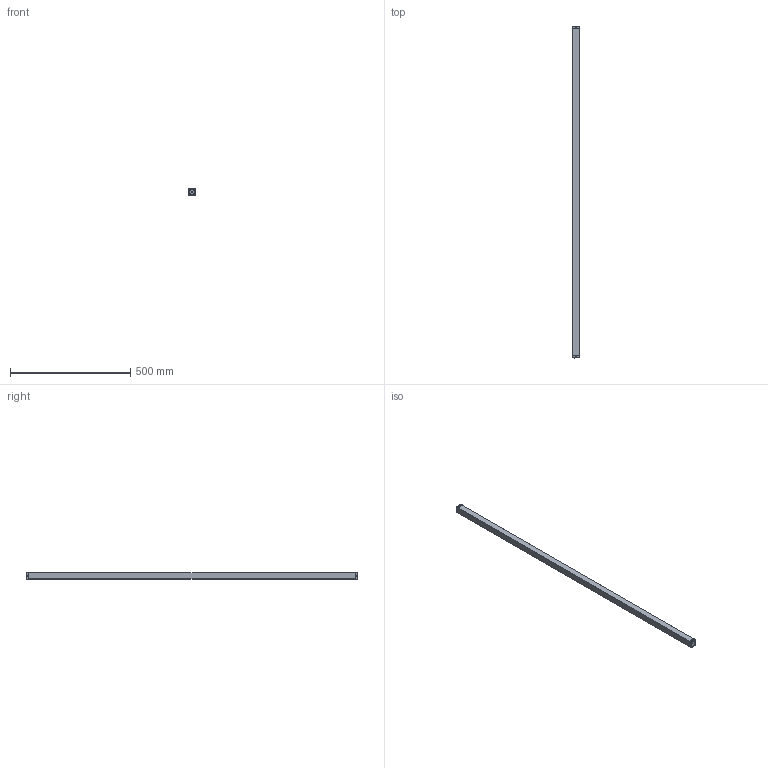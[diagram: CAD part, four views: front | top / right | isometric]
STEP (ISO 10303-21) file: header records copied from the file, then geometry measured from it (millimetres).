
FILE_DESCRIPTION((''),'2;1');
FILE_NAME('ELD00_ASM','2021-07-20T09:57:27',('18720616900'),(''),'CREO PARAMETRIC BY PTC INC, 2019010','CREO PARAMETRIC BY PTC INC, 2019010','');
FILE_SCHEMA(('CONFIG_CONTROL_DESIGN'));
Length unit declared in the file: millimetre
Products named in the file (6): ELD--00; ELD--000; ST-3-12; ELD00_ASM
Assembly tree (12 placements, depth 2):
  ELD00_ASM
    ELD--00
    ELD--000
    ELD--000
    ELD--000
    ST-3-12  x8
Bounding box: 28 x 1382 x 28 mm (x, y, z)
Volume: 1079328 mm3; surface area: 223538.9 mm2
Topology: 12 solids, 12 shells, 792 faces, 2082 edges, 1296 vertices
Faces by surface type: plane 236, cone 172, bspline 168, cylinder 156, torus 44, sphere 16
Entity records: 14414 total; most frequent: CARTESIAN_POINT 6863, ORIENTED_EDGE 1584, DIRECTION 1469, EDGE_CURVE 792, AXIS2_PLACEMENT_3D 520, VERTEX_POINT 491, VECTOR 429, LINE 429
